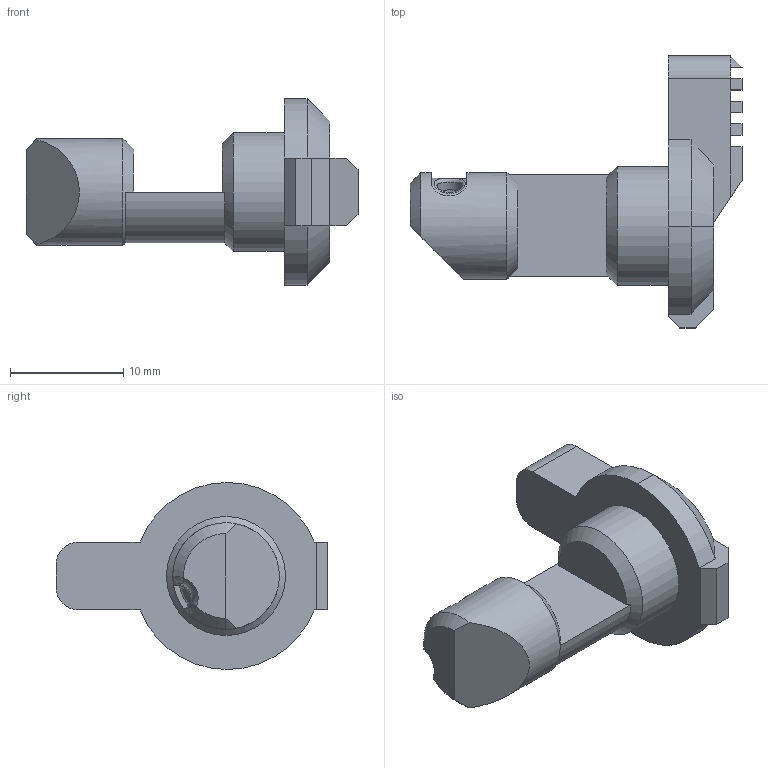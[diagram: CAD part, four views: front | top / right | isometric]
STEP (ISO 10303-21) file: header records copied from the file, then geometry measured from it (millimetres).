
FILE_DESCRIPTION(('HOOPS Exchange Step'),'2;1');
FILE_NAME('/private/var/mobile/Containers/Data/Application/CF5FE49D-83C9-4FF2-81F6-0AAB70978F0F/tmp/export/temp_export','2026-08-29T23:11:02+19:00',('mobile'),('Shapr3D Limited'),'HOOPS Exchange 2026.3','Shapr3D','Authorized');
FILE_SCHEMA( ('AP242_MANAGED_MODEL_BASED_3D_ENGINEERING_MIM_LF {1 0 10303 442 1 1 4}') );
Length unit declared in the file: millimetre
Products named in the file (3): Safety; Safety.step; root
Assembly tree (2 placements, depth 3):
  root
    Safety.step
      Safety
Bounding box: 29.3 x 24 x 16.5 mm (x, y, z)
Volume: 2361.5 mm3; surface area: 1503.7 mm2
Topology: 1 solids, 1 shells, 84 faces, 214 edges, 135 vertices
Faces by surface type: plane 48, cylinder 16, cone 10, torus 5, bspline 5
Full cylindrical faces by diameter (mm): 2.25 x2, 9.4 x1, 10.5 x1
Entity records: 5153 total; most frequent: CARTESIAN_POINT 3116, ORIENTED_EDGE 428, DIRECTION 384, EDGE_CURVE 214, VERTEX_POINT 135, AXIS2_PLACEMENT_3D 133, VECTOR 118, LINE 118
